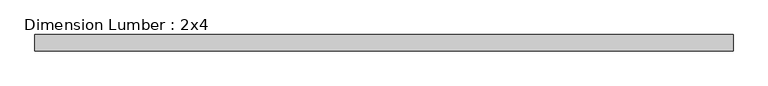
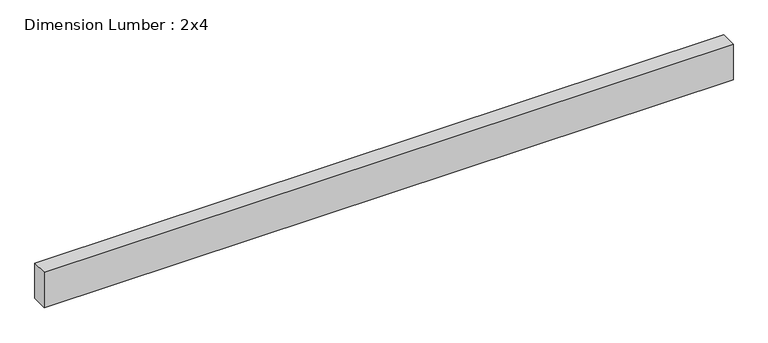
"""IFC4 building model written with IfcOpenShell, lengths in millimetres: beam geometry, Dimension Lumber : 2x4."""

from ifc_helpers import new_model, si_unit, frame, origin, place, context, project, spatial, polyline, outline, extrude, source, transform, mapped, element, save


def dimension_lumber_2x4_ac48cc5b(model_context):
    return source(origin(), model_context, "Body", "SweptSolid", [
        extrude(outline(polyline([(817.7532592, 19.05), (817.7532592, -19.05), (-817.7532592, -19.05), (-817.7532592, 19.05), (817.7532592, 19.05)])), frame((0.0, 0.0, -44.45), z_axis=(0.0, 0.0, 1.0), x_axis=(1.0, 0.0, 0.0)), (0.0, 0.0, 1.0), 88.9),
    ])


if __name__ == "__main__":
    model = new_model("IFC4")
    model_context = context("Model", 3, world=origin())
    ifc_project = project(units=[si_unit("LENGTHUNIT", "METRE", prefix="MILLI")], contexts=[model_context])
    site = spatial("IfcSite", under=ifc_project)
    building = spatial("IfcBuilding", under=site)
    placement = place(None, origin())
    dimension_lumber_2x4_shape = dimension_lumber_2x4_ac48cc5b(model_context)
    element("IfcBeam", 1, ObjectType="Dimension Lumber : 2x4", at=placement, inside=building, context=model_context, shape_type="MappedRepresentation", body=[
        mapped(dimension_lumber_2x4_shape, transform((0.0, 0.0, 0.0), x_axis=(1.0, 0.0, 0.0), y_axis=(0.0, 1.0, 0.0), z_axis=(0.0, 0.0, 1.0))),
    ])
    save(model, "model.ifc")
